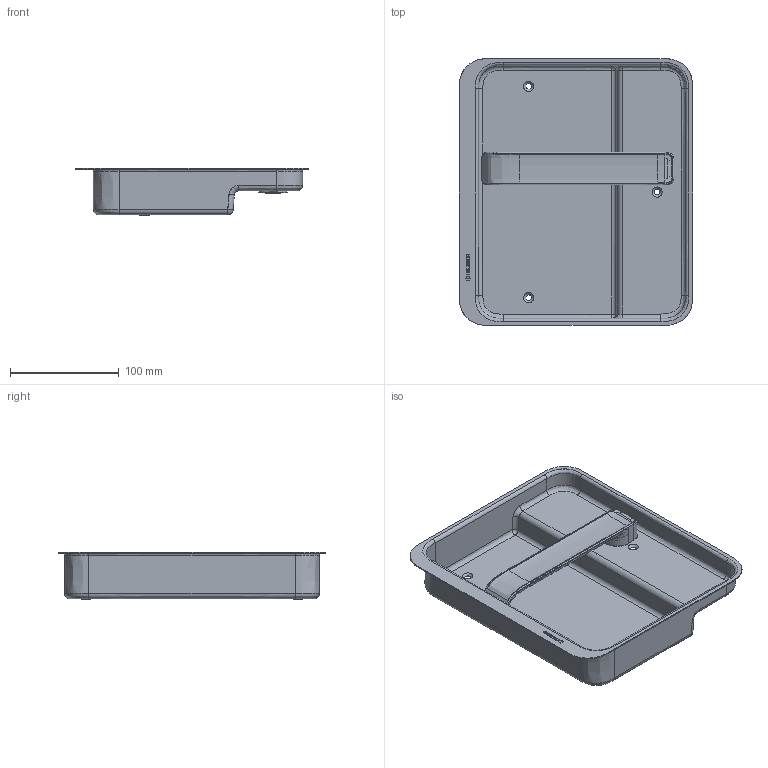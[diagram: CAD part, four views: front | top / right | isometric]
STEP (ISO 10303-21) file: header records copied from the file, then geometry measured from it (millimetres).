
FILE_DESCRIPTION(/* description */ (''),/* implementation_level */ '2;1');
FILE_NAME(/* name */ 'C:\ADSK_DMS_WS\Designs\Vorschläge\Loc Schalen\Muschel Serie 9\S9.42.D3Links\Heusser-Muschel S9.42.D3.0L.stp',/* time_stamp */ '2020-10-13T10:06:06+02:00',/* author */ ('gm'),/* organization */ (''),/* preprocessor_version */ 'ST-DEVELOPER v16.5',/* originating_system */ 'Autodesk Inventor 2017',/* authorisation */ '');
FILE_SCHEMA (('AUTOMOTIVE_DESIGN { 1 0 10303 214 3 1 1 }'));
Length unit declared in the file: millimetre
Products named in the file (1): S9.42.D3.0L
Bounding box: 214 x 245 x 44 mm (x, y, z)
Volume: 114911.9 mm3; surface area: 177792.8 mm2
Topology: 1 solids, 2 shells, 350 faces, 891 edges, 570 vertices
Faces by surface type: bspline 180, plane 135, cylinder 19, cone 16
Full cylindrical faces by diameter (mm): 1.7 x2, 14.2 x1, 16 x3, 18 x1, 19 x1, 19.1 x1, 23 x1, 23.2 x1, 24 x1, 25 x1, 26 x1, 28 x1
Entity records: 21402 total; most frequent: CARTESIAN_POINT 13828, ORIENTED_EDGE 1702, DIRECTION 961, EDGE_CURVE 851, VERTEX_POINT 565, LINE 431, VECTOR 431, EDGE_LOOP 424
